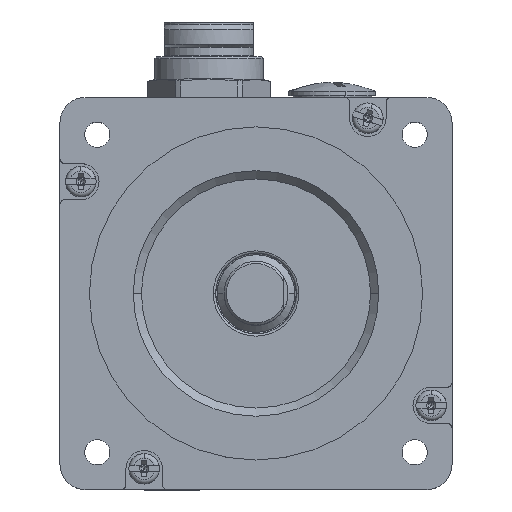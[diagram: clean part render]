
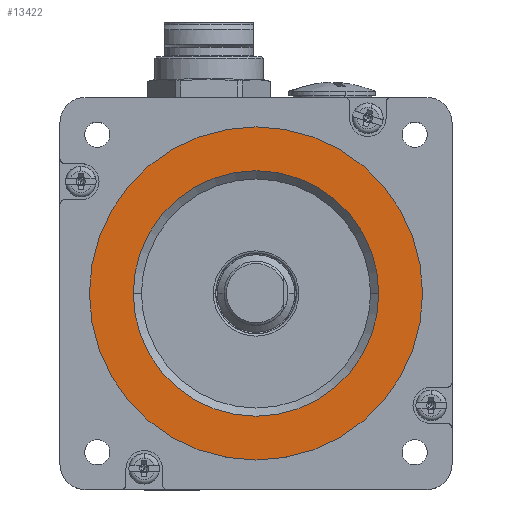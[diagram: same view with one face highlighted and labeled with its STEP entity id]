
A CAD part, top view. The second image highlights one B-rep face of the part: STEP entity #13422.
In plain terms, the highlighted planar face has unit normal (0, 0, 1).
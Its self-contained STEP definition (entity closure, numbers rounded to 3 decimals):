
#1015 = CARTESIAN_POINT ( 'NONE',  ( -38.601, 1.96, 96.4 ) ) ;
#3144 = CARTESIAN_POINT ( 'NONE',  ( -11.701, 1.96, 96.4 ) ) ;
#6740 = EDGE_LOOP ( 'NONE', ( #46381, #78213 ) ) ;
#6969 = CIRCLE ( 'NONE', #9662, 26.9 ) ;
#7239 = EDGE_CURVE ( 'NONE', #34724, #11161, #58366, .T. ) ;
#9662 = AXIS2_PLACEMENT_3D ( 'NONE', #77118, #51991, #57451 ) ;
#11161 = VERTEX_POINT ( 'NONE', #29423 ) ;
#13422 = ADVANCED_FACE ( 'NONE', ( #82204, #37796 ), #36971, .T. ) ;
#14139 = CARTESIAN_POINT ( 'NONE',  ( -11.701, 1.96, 96.4 ) ) ;
#17241 = DIRECTION ( 'NONE',  ( 1., 0., 0. ) ) ;
#17920 = EDGE_CURVE ( 'NONE', #21127, #67155, #26983, .T. ) ;
#20882 = DIRECTION ( 'NONE',  ( 1., 0., 0. ) ) ;
#21127 = VERTEX_POINT ( 'NONE', #70508 ) ;
#23526 = CARTESIAN_POINT ( 'NONE',  ( -49.151, -35.49, 96.4 ) ) ;
#26983 = CIRCLE ( 'NONE', #43257, 36.5 ) ;
#29423 = CARTESIAN_POINT ( 'NONE',  ( 15.199, 1.96, 96.4 ) ) ;
#33111 = CARTESIAN_POINT ( 'NONE',  ( -11.701, 1.96, 96.4 ) ) ;
#34724 = VERTEX_POINT ( 'NONE', #1015 ) ;
#36971 = PLANE ( 'NONE',  #47906 ) ;
#37796 = FACE_OUTER_BOUND ( 'NONE', #72135, .T. ) ;
#43257 = AXIS2_PLACEMENT_3D ( 'NONE', #33111, #58737, #57479 ) ;
#46381 = ORIENTED_EDGE ( 'NONE', *, *, #66302, .T. ) ;
#47906 = AXIS2_PLACEMENT_3D ( 'NONE', #23526, #57105, #17241 ) ;
#48439 = ORIENTED_EDGE ( 'NONE', *, *, #17920, .T. ) ;
#49933 = CARTESIAN_POINT ( 'NONE',  ( -48.201, 1.96, 96.4 ) ) ;
#51991 = DIRECTION ( 'NONE',  ( 0., 0., -1. ) ) ;
#52363 = EDGE_CURVE ( 'NONE', #67155, #21127, #75524, .T. ) ;
#53044 = DIRECTION ( 'NONE',  ( 1., 0., 0. ) ) ;
#54917 = ORIENTED_EDGE ( 'NONE', *, *, #52363, .T. ) ;
#57051 = AXIS2_PLACEMENT_3D ( 'NONE', #14139, #65369, #20882 ) ;
#57105 = DIRECTION ( 'NONE',  ( 0., 0., 1. ) ) ;
#57451 = DIRECTION ( 'NONE',  ( 1., 0., 0. ) ) ;
#57479 = DIRECTION ( 'NONE',  ( 1., 0., 0. ) ) ;
#58366 = CIRCLE ( 'NONE', #57051, 26.9 ) ;
#58737 = DIRECTION ( 'NONE',  ( 0., 0., 1. ) ) ;
#65369 = DIRECTION ( 'NONE',  ( 0., 0., -1. ) ) ;
#66302 = EDGE_CURVE ( 'NONE', #11161, #34724, #6969, .T. ) ;
#67155 = VERTEX_POINT ( 'NONE', #49933 ) ;
#70508 = CARTESIAN_POINT ( 'NONE',  ( 24.799, 1.96, 96.4 ) ) ;
#71538 = AXIS2_PLACEMENT_3D ( 'NONE', #3144, #72305, #53044 ) ;
#72135 = EDGE_LOOP ( 'NONE', ( #48439, #54917 ) ) ;
#72305 = DIRECTION ( 'NONE',  ( 0., 0., 1. ) ) ;
#75524 = CIRCLE ( 'NONE', #71538, 36.5 ) ;
#77118 = CARTESIAN_POINT ( 'NONE',  ( -11.701, 1.96, 96.4 ) ) ;
#78213 = ORIENTED_EDGE ( 'NONE', *, *, #7239, .T. ) ;
#82204 = FACE_BOUND ( 'NONE', #6740, .T. ) ;
